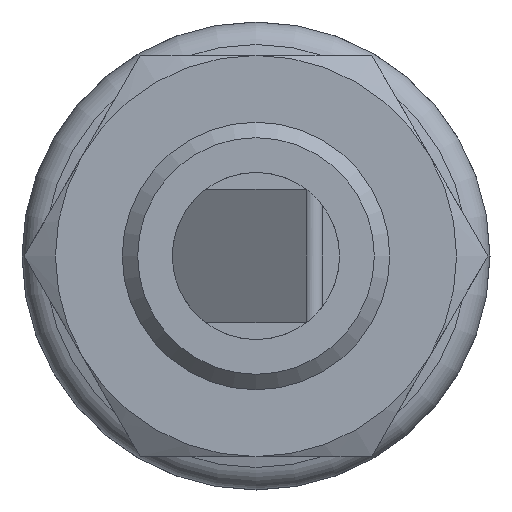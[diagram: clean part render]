
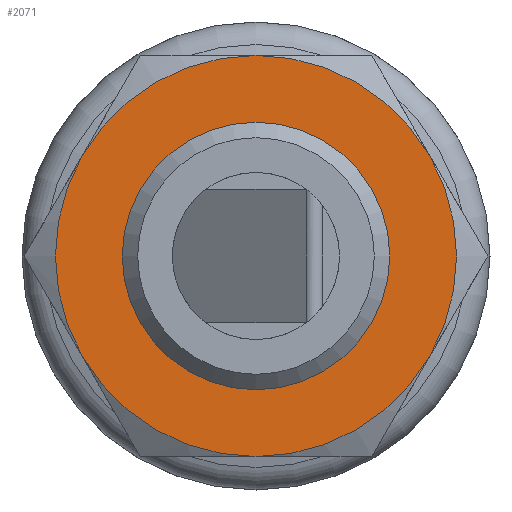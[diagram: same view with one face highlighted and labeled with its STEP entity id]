
A CAD part, front view. The second image highlights one B-rep face of the part: STEP entity #2071.
In plain terms, the highlighted planar face has unit normal (0, -1, 0).
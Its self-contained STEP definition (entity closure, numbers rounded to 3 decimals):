
#218=CIRCLE('',#2253,12.);
#219=CIRCLE('',#2255,12.);
#220=CIRCLE('',#2257,12.);
#221=CIRCLE('',#2259,12.);
#222=CIRCLE('',#2261,12.);
#225=CIRCLE('',#2267,12.);
#226=CIRCLE('',#2269,6.918);
#564=ORIENTED_EDGE('',*,*,#793,.F.);
#565=ORIENTED_EDGE('',*,*,#777,.T.);
#566=ORIENTED_EDGE('',*,*,#780,.T.);
#567=ORIENTED_EDGE('',*,*,#783,.T.);
#568=ORIENTED_EDGE('',*,*,#790,.T.);
#569=ORIENTED_EDGE('',*,*,#773,.T.);
#570=ORIENTED_EDGE('',*,*,#774,.T.);
#773=EDGE_CURVE('',#916,#918,#218,.T.);
#774=EDGE_CURVE('',#918,#919,#219,.T.);
#777=EDGE_CURVE('',#919,#921,#220,.T.);
#780=EDGE_CURVE('',#921,#923,#221,.T.);
#783=EDGE_CURVE('',#923,#925,#222,.T.);
#790=EDGE_CURVE('',#925,#916,#225,.T.);
#793=EDGE_CURVE('',#930,#930,#226,.T.);
#916=VERTEX_POINT('',#3228);
#918=VERTEX_POINT('',#3234);
#919=VERTEX_POINT('',#3238);
#921=VERTEX_POINT('',#3250);
#923=VERTEX_POINT('',#3262);
#925=VERTEX_POINT('',#3274);
#930=VERTEX_POINT('',#3311);
#1179=EDGE_LOOP('',(#564));
#1180=EDGE_LOOP('',(#565,#566,#567,#568,#569,#570));
#1325=FACE_BOUND('',#1179,.T.);
#1326=FACE_BOUND('',#1180,.T.);
#1376=PLANE('',#2268);
#2071=ADVANCED_FACE('',(#1325,#1326),#1376,.F.);
#2253=AXIS2_PLACEMENT_3D('',#3235,#2648,#2649);
#2255=AXIS2_PLACEMENT_3D('',#3237,#2652,#2653);
#2257=AXIS2_PLACEMENT_3D('',#3249,#2656,#2657);
#2259=AXIS2_PLACEMENT_3D('',#3261,#2660,#2661);
#2261=AXIS2_PLACEMENT_3D('',#3273,#2664,#2665);
#2267=AXIS2_PLACEMENT_3D('',#3299,#2676,#2677);
#2268=AXIS2_PLACEMENT_3D('',#3309,#2678,#2679);
#2269=AXIS2_PLACEMENT_3D('',#3310,#2680,#2681);
#2648=DIRECTION('',(0.,-1.,0.));
#2649=DIRECTION('',(0.,0.,-1.));
#2652=DIRECTION('',(0.,-1.,0.));
#2653=DIRECTION('',(0.,0.,-1.));
#2656=DIRECTION('',(0.,-1.,0.));
#2657=DIRECTION('',(0.,0.,-1.));
#2660=DIRECTION('',(0.,-1.,0.));
#2661=DIRECTION('',(0.,0.,-1.));
#2664=DIRECTION('',(0.,-1.,0.));
#2665=DIRECTION('',(0.,0.,-1.));
#2676=DIRECTION('',(0.,-1.,0.));
#2677=DIRECTION('',(0.,0.,-1.));
#2678=DIRECTION('',(0.,1.,0.));
#2679=DIRECTION('',(0.,0.,1.));
#2680=DIRECTION('',(0.,-1.,0.));
#2681=DIRECTION('',(0.,0.,-1.));
#3228=CARTESIAN_POINT('',(-10.392,0.,6.));
#3234=CARTESIAN_POINT('',(-10.392,0.,-6.));
#3235=CARTESIAN_POINT('',(0.,0.,0.));
#3237=CARTESIAN_POINT('',(0.,0.,0.));
#3238=CARTESIAN_POINT('',(0.,0.,-12.));
#3249=CARTESIAN_POINT('',(0.,0.,0.));
#3250=CARTESIAN_POINT('',(10.392,0.,-6.));
#3261=CARTESIAN_POINT('',(0.,0.,0.));
#3262=CARTESIAN_POINT('',(10.392,0.,6.));
#3273=CARTESIAN_POINT('',(0.,0.,0.));
#3274=CARTESIAN_POINT('',(0.,0.,12.));
#3299=CARTESIAN_POINT('',(0.,0.,0.));
#3309=CARTESIAN_POINT('',(12.,0.,0.));
#3310=CARTESIAN_POINT('',(0.,0.,0.));
#3311=CARTESIAN_POINT('',(0.,0.,-6.918));
